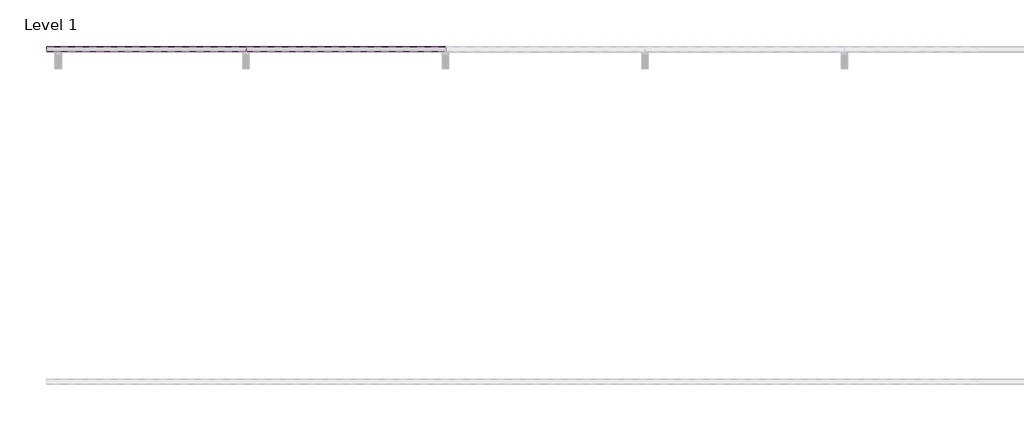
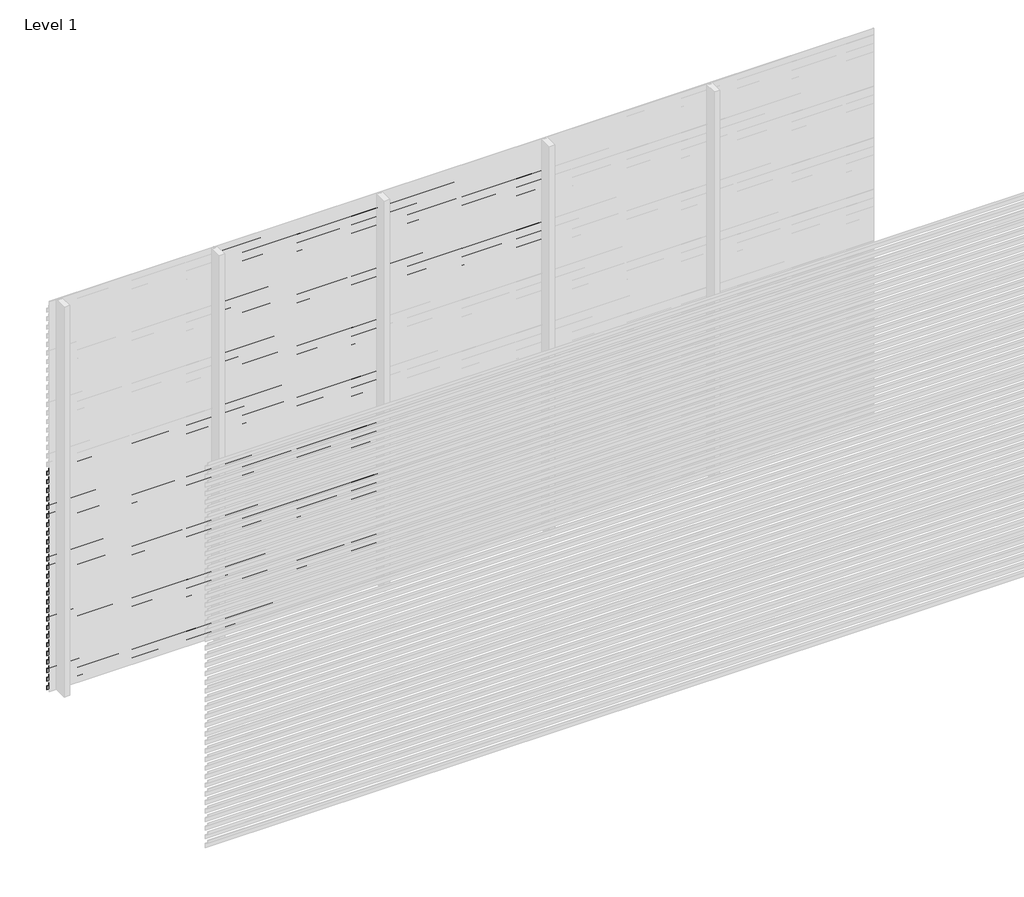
# One storey, part 58 of 540: 85 proxies.
"""IFC4 building model written with IfcOpenShell, lengths in millimetres."""

from ifc_helpers import new_model, si_unit, frame, origin, place, context, project, spatial, polyline, outline, extrude, element, save

model = new_model("IFC4")

# Units and contexts
model_context = context("Model", 3, world=origin())
ifc_project = project(units=[si_unit("LENGTHUNIT", "METRE", prefix="MILLI")], contexts=[model_context])

# Site, building, storey
site = spatial("IfcSite", under=ifc_project)
building = spatial("IfcBuilding", under=site)
storey = spatial("IfcBuildingStorey", under=building, Name="Level 1", Elevation=0.0)

# Proxies
placement = place(None, origin())
element("IfcBuildingElementProxy", 1, Name="Wall Sweeps", at=placement, inside=storey, context=model_context, shape_type="SweptSolid", body=[
    extrude(outline(polyline([(29014.0540136, 1676.0), (29014.0540136, 1643.0), (29012.8040136, 1643.7216933), (29012.8040136, 1675.2872415), (28983.0540136, 1696.0588647), (28983.0540136, 1716.0), (28984.3040136, 1716.0), (28984.3040136, 1696.7716232), (29014.0540136, 1676.0)])), frame((44966.6208097, 0.0, 0.0), z_axis=(1.0, 0.0, 0.0), x_axis=(0.0, 1.0, 0.0)), (0.0, 0.0, 1.0), 1200.0),
])
element("IfcBuildingElementProxy", 2, Name="Wall Sweeps", at=placement, inside=storey, context=model_context, shape_type="SweptSolid", body=[
    extrude(outline(polyline([(29014.0540136, 1610.0), (29014.0540136, 1577.0), (29012.8040136, 1577.7216933), (29012.8040136, 1609.2872415), (28983.0540136, 1630.0588647), (28983.0540136, 1650.0), (28984.3040136, 1650.0), (28984.3040136, 1630.7716232), (29014.0540136, 1610.0)])), frame((44966.6208097, 0.0, 0.0), z_axis=(1.0, 0.0, 0.0), x_axis=(0.0, 1.0, 0.0)), (0.0, 0.0, 1.0), 1200.0),
])
element("IfcBuildingElementProxy", 3, Name="Wall Sweeps", at=placement, inside=storey, context=model_context, shape_type="SweptSolid", body=[
    extrude(outline(polyline([(29014.0540136, 1544.0), (29014.0540136, 1511.0), (29012.8040136, 1511.7216933), (29012.8040136, 1543.2872415), (28983.0540136, 1564.0588647), (28983.0540136, 1584.0), (28984.3040136, 1584.0), (28984.3040136, 1564.7716232), (29014.0540136, 1544.0)])), frame((44966.6208097, 0.0, 0.0), z_axis=(1.0, 0.0, 0.0), x_axis=(0.0, 1.0, 0.0)), (0.0, 0.0, 1.0), 1200.0),
])
element("IfcBuildingElementProxy", 4, Name="Wall Sweeps", at=placement, inside=storey, context=model_context, shape_type="SweptSolid", body=[
    extrude(outline(polyline([(29014.0540136, 1478.0), (29014.0540136, 1445.0), (29012.8040136, 1445.7216933), (29012.8040136, 1477.2872415), (28983.0540136, 1498.0588647), (28983.0540136, 1518.0), (28984.3040136, 1518.0), (28984.3040136, 1498.7716232), (29014.0540136, 1478.0)])), frame((44966.6208097, 0.0, 0.0), z_axis=(1.0, 0.0, 0.0), x_axis=(0.0, 1.0, 0.0)), (0.0, 0.0, 1.0), 1200.0),
])
element("IfcBuildingElementProxy", 5, Name="Wall Sweeps", at=placement, inside=storey, context=model_context, shape_type="SweptSolid", body=[
    extrude(outline(polyline([(29014.0540136, 1412.0), (29014.0540136, 1379.0), (29012.8040136, 1379.7216933), (29012.8040136, 1411.2872415), (28983.0540136, 1432.0588647), (28983.0540136, 1452.0), (28984.3040136, 1452.0), (28984.3040136, 1432.7716232), (29014.0540136, 1412.0)])), frame((44966.6208097, 0.0, 0.0), z_axis=(1.0, 0.0, 0.0), x_axis=(0.0, 1.0, 0.0)), (0.0, 0.0, 1.0), 1200.0),
])
element("IfcBuildingElementProxy", 6, Name="Wall Sweeps", at=placement, inside=storey, context=model_context, shape_type="SweptSolid", body=[
    extrude(outline(polyline([(29014.0540136, 1346.0), (29014.0540136, 1313.0), (29012.8040136, 1313.7216933), (29012.8040136, 1345.2872415), (28983.0540136, 1366.0588647), (28983.0540136, 1386.0), (28984.3040136, 1386.0), (28984.3040136, 1366.7716232), (29014.0540136, 1346.0)])), frame((44966.6208097, 0.0, 0.0), z_axis=(1.0, 0.0, 0.0), x_axis=(0.0, 1.0, 0.0)), (0.0, 0.0, 1.0), 1200.0),
])
element("IfcBuildingElementProxy", 7, Name="Wall Sweeps", at=placement, inside=storey, context=model_context, shape_type="SweptSolid", body=[
    extrude(outline(polyline([(29014.0540136, 1280.0), (29014.0540136, 1247.0), (29012.8040136, 1247.7216933), (29012.8040136, 1279.2872415), (28983.0540136, 1300.0588647), (28983.0540136, 1320.0), (28984.3040136, 1320.0), (28984.3040136, 1300.7716232), (29014.0540136, 1280.0)])), frame((44966.6208097, 0.0, 0.0), z_axis=(1.0, 0.0, 0.0), x_axis=(0.0, 1.0, 0.0)), (0.0, 0.0, 1.0), 1200.0),
])
element("IfcBuildingElementProxy", 8, Name="Wall Sweeps", at=placement, inside=storey, context=model_context, shape_type="SweptSolid", body=[
    extrude(outline(polyline([(29014.0540136, 1214.0), (29014.0540136, 1181.0), (29012.8040136, 1181.7216933), (29012.8040136, 1213.2872415), (28983.0540136, 1234.0588647), (28983.0540136, 1254.0), (28984.3040136, 1254.0), (28984.3040136, 1234.7716232), (29014.0540136, 1214.0)])), frame((44966.6208097, 0.0, 0.0), z_axis=(1.0, 0.0, 0.0), x_axis=(0.0, 1.0, 0.0)), (0.0, 0.0, 1.0), 1200.0),
])
element("IfcBuildingElementProxy", 9, Name="Wall Sweeps", at=placement, inside=storey, context=model_context, shape_type="SweptSolid", body=[
    extrude(outline(polyline([(29014.0540136, 1148.0), (29014.0540136, 1115.0), (29012.8040136, 1115.7216933), (29012.8040136, 1147.2872415), (28983.0540136, 1168.0588647), (28983.0540136, 1188.0), (28984.3040136, 1188.0), (28984.3040136, 1168.7716232), (29014.0540136, 1148.0)])), frame((44966.6208097, 0.0, 0.0), z_axis=(1.0, 0.0, 0.0), x_axis=(0.0, 1.0, 0.0)), (0.0, 0.0, 1.0), 1200.0),
])
element("IfcBuildingElementProxy", 10, Name="Wall Sweeps", at=placement, inside=storey, context=model_context, shape_type="SweptSolid", body=[
    extrude(outline(polyline([(29014.0540136, 1082.0), (29014.0540136, 1049.0), (29012.8040136, 1049.7216933), (29012.8040136, 1081.2872415), (28983.0540136, 1102.0588647), (28983.0540136, 1122.0), (28984.3040136, 1122.0), (28984.3040136, 1102.7716232), (29014.0540136, 1082.0)])), frame((44966.6208097, 0.0, 0.0), z_axis=(1.0, 0.0, 0.0), x_axis=(0.0, 1.0, 0.0)), (0.0, 0.0, 1.0), 1200.0),
])
element("IfcBuildingElementProxy", 11, Name="Wall Sweeps", at=placement, inside=storey, context=model_context, shape_type="SweptSolid", body=[
    extrude(outline(polyline([(29014.0540136, 1016.0), (29014.0540136, 983.0), (29012.8040136, 983.7216933), (29012.8040136, 1015.2872415), (28983.0540136, 1036.0588647), (28983.0540136, 1056.0), (28984.3040136, 1056.0), (28984.3040136, 1036.7716232), (29014.0540136, 1016.0)])), frame((44966.6208097, 0.0, 0.0), z_axis=(1.0, 0.0, 0.0), x_axis=(0.0, 1.0, 0.0)), (0.0, 0.0, 1.0), 1200.0),
])
element("IfcBuildingElementProxy", 12, Name="Wall Sweeps", at=placement, inside=storey, context=model_context, shape_type="SweptSolid", body=[
    extrude(outline(polyline([(29014.0540136, 950.0), (29014.0540136, 917.0), (29012.8040136, 917.7216933), (29012.8040136, 949.2872415), (28983.0540136, 970.0588647), (28983.0540136, 990.0), (28984.3040136, 990.0), (28984.3040136, 970.7716232), (29014.0540136, 950.0)])), frame((44966.6208097, 0.0, 0.0), z_axis=(1.0, 0.0, 0.0), x_axis=(0.0, 1.0, 0.0)), (0.0, 0.0, 1.0), 1200.0),
])
element("IfcBuildingElementProxy", 13, Name="Wall Sweeps", at=placement, inside=storey, context=model_context, shape_type="SweptSolid", body=[
    extrude(outline(polyline([(29014.0540136, 884.0), (29014.0540136, 851.0), (29012.8040136, 851.7216933), (29012.8040136, 883.2872415), (28983.0540136, 904.0588647), (28983.0540136, 924.0), (28984.3040136, 924.0), (28984.3040136, 904.7716232), (29014.0540136, 884.0)])), frame((44966.6208097, 0.0, 0.0), z_axis=(1.0, 0.0, 0.0), x_axis=(0.0, 1.0, 0.0)), (0.0, 0.0, 1.0), 1200.0),
])
element("IfcBuildingElementProxy", 14, Name="Wall Sweeps", at=placement, inside=storey, context=model_context, shape_type="SweptSolid", body=[
    extrude(outline(polyline([(29014.0540136, 818.0), (29014.0540136, 785.0), (29012.8040136, 785.7216933), (29012.8040136, 817.2872415), (28983.0540136, 838.0588647), (28983.0540136, 858.0), (28984.3040136, 858.0), (28984.3040136, 838.7716232), (29014.0540136, 818.0)])), frame((44966.6208097, 0.0, 0.0), z_axis=(1.0, 0.0, 0.0), x_axis=(0.0, 1.0, 0.0)), (0.0, 0.0, 1.0), 1200.0),
])
element("IfcBuildingElementProxy", 15, Name="Wall Sweeps", at=placement, inside=storey, context=model_context, shape_type="SweptSolid", body=[
    extrude(outline(polyline([(29014.0540136, 752.0), (29014.0540136, 719.0), (29012.8040136, 719.7216933), (29012.8040136, 751.2872415), (28983.0540136, 772.0588647), (28983.0540136, 792.0), (28984.3040136, 792.0), (28984.3040136, 772.7716232), (29014.0540136, 752.0)])), frame((44966.6208097, 0.0, 0.0), z_axis=(1.0, 0.0, 0.0), x_axis=(0.0, 1.0, 0.0)), (0.0, 0.0, 1.0), 1200.0),
])
element("IfcBuildingElementProxy", 16, Name="Wall Sweeps", at=placement, inside=storey, context=model_context, shape_type="SweptSolid", body=[
    extrude(outline(polyline([(29014.0540136, 686.0), (29014.0540136, 653.0), (29012.8040136, 653.7216933), (29012.8040136, 685.2872415), (28983.0540136, 706.0588647), (28983.0540136, 726.0), (28984.3040136, 726.0), (28984.3040136, 706.7716232), (29014.0540136, 686.0)])), frame((44966.6208097, 0.0, 0.0), z_axis=(1.0, 0.0, 0.0), x_axis=(0.0, 1.0, 0.0)), (0.0, 0.0, 1.0), 1200.0),
])
element("IfcBuildingElementProxy", 17, Name="Wall Sweeps", at=placement, inside=storey, context=model_context, shape_type="SweptSolid", body=[
    extrude(outline(polyline([(29014.0540136, 620.0), (29014.0540136, 587.0), (29012.8040136, 587.7216933), (29012.8040136, 619.2872415), (28983.0540136, 640.0588647), (28983.0540136, 660.0), (28984.3040136, 660.0), (28984.3040136, 640.7716232), (29014.0540136, 620.0)])), frame((44966.6208097, 0.0, 0.0), z_axis=(1.0, 0.0, 0.0), x_axis=(0.0, 1.0, 0.0)), (0.0, 0.0, 1.0), 1200.0),
])
element("IfcBuildingElementProxy", 18, Name="Wall Sweeps", at=placement, inside=storey, context=model_context, shape_type="SweptSolid", body=[
    extrude(outline(polyline([(29014.0540136, 554.0), (29014.0540136, 521.0), (29012.8040136, 521.7216933), (29012.8040136, 553.2872415), (28983.0540136, 574.0588647), (28983.0540136, 594.0), (28984.3040136, 594.0), (28984.3040136, 574.7716232), (29014.0540136, 554.0)])), frame((44966.6208097, 0.0, 0.0), z_axis=(1.0, 0.0, 0.0), x_axis=(0.0, 1.0, 0.0)), (0.0, 0.0, 1.0), 1200.0),
])
element("IfcBuildingElementProxy", 19, Name="Wall Sweeps", at=placement, inside=storey, context=model_context, shape_type="SweptSolid", body=[
    extrude(outline(polyline([(29014.0540136, 488.0), (29014.0540136, 455.0), (29012.8040136, 455.7216933), (29012.8040136, 487.2872415), (28983.0540136, 508.0588647), (28983.0540136, 528.0), (28984.3040136, 528.0), (28984.3040136, 508.7716232), (29014.0540136, 488.0)])), frame((44966.6208097, 0.0, 0.0), z_axis=(1.0, 0.0, 0.0), x_axis=(0.0, 1.0, 0.0)), (0.0, 0.0, 1.0), 1200.0),
])
element("IfcBuildingElementProxy", 20, Name="Wall Sweeps", at=placement, inside=storey, context=model_context, shape_type="SweptSolid", body=[
    extrude(outline(polyline([(29014.0540136, 422.0), (29014.0540136, 389.0), (29012.8040136, 389.7216933), (29012.8040136, 421.2872415), (28983.0540136, 442.0588647), (28983.0540136, 462.0), (28984.3040136, 462.0), (28984.3040136, 442.7716232), (29014.0540136, 422.0)])), frame((44966.6208097, 0.0, 0.0), z_axis=(1.0, 0.0, 0.0), x_axis=(0.0, 1.0, 0.0)), (0.0, 0.0, 1.0), 1200.0),
])
element("IfcBuildingElementProxy", 21, Name="Wall Sweeps", at=placement, inside=storey, context=model_context, shape_type="SweptSolid", body=[
    extrude(outline(polyline([(29014.0540136, 356.0), (29014.0540136, 323.0), (29012.8040136, 323.7216933), (29012.8040136, 355.2872415), (28983.0540136, 376.0588647), (28983.0540136, 396.0), (28984.3040136, 396.0), (28984.3040136, 376.7716232), (29014.0540136, 356.0)])), frame((44966.6208097, 0.0, 0.0), z_axis=(1.0, 0.0, 0.0), x_axis=(0.0, 1.0, 0.0)), (0.0, 0.0, 1.0), 1200.0),
])
element("IfcBuildingElementProxy", 22, Name="Wall Sweeps", at=placement, inside=storey, context=model_context, shape_type="SweptSolid", body=[
    extrude(outline(polyline([(29014.0540136, 290.0), (29014.0540136, 257.0), (29012.8040136, 257.7216933), (29012.8040136, 289.2872415), (28983.0540136, 310.0588647), (28983.0540136, 330.0), (28984.3040136, 330.0), (28984.3040136, 310.7716232), (29014.0540136, 290.0)])), frame((44966.6208097, 0.0, 0.0), z_axis=(1.0, 0.0, 0.0), x_axis=(0.0, 1.0, 0.0)), (0.0, 0.0, 1.0), 1200.0),
])
element("IfcBuildingElementProxy", 23, Name="Wall Sweeps", at=placement, inside=storey, context=model_context, shape_type="SweptSolid", body=[
    extrude(outline(polyline([(29014.0540136, 224.0), (29014.0540136, 191.0), (29012.8040136, 191.7216933), (29012.8040136, 223.2872415), (28983.0540136, 244.0588647), (28983.0540136, 264.0), (28984.3040136, 264.0), (28984.3040136, 244.7716232), (29014.0540136, 224.0)])), frame((44966.6208097, 0.0, 0.0), z_axis=(1.0, 0.0, 0.0), x_axis=(0.0, 1.0, 0.0)), (0.0, 0.0, 1.0), 1200.0),
])
element("IfcBuildingElementProxy", 24, Name="Wall Sweeps", at=placement, inside=storey, context=model_context, shape_type="SweptSolid", body=[
    extrude(outline(polyline([(29014.0540136, 158.0), (29014.0540136, 125.0), (29012.8040136, 125.7216933), (29012.8040136, 157.2872415), (28983.0540136, 178.0588647), (28983.0540136, 198.0), (28984.3040136, 198.0), (28984.3040136, 178.7716232), (29014.0540136, 158.0)])), frame((44966.6208097, 0.0, 0.0), z_axis=(1.0, 0.0, 0.0), x_axis=(0.0, 1.0, 0.0)), (0.0, 0.0, 1.0), 1200.0),
])
element("IfcBuildingElementProxy", 25, Name="Wall Sweeps", at=placement, inside=storey, context=model_context, shape_type="SweptSolid", body=[
    extrude(outline(polyline([(29014.0540136, 92.0), (29014.0540136, 59.0), (29012.8040136, 59.7216933), (29012.8040136, 91.2872415), (28983.0540136, 112.0588647), (28983.0540136, 132.0), (28984.3040136, 132.0), (28984.3040136, 112.7716232), (29014.0540136, 92.0)])), frame((44966.6208097, 0.0, 0.0), z_axis=(1.0, 0.0, 0.0), x_axis=(0.0, 1.0, 0.0)), (0.0, 0.0, 1.0), 1200.0),
])
element("IfcBuildingElementProxy", 26, Name="Wall Sweeps", at=placement, inside=storey, context=model_context, shape_type="SweptSolid", body=[
    extrude(outline(polyline([(29014.0540136, 26.0), (29014.0540136, -7.0), (29012.8040136, -6.2783067), (29012.8040136, 25.2872415), (28983.0540136, 46.0588647), (28983.0540136, 66.0), (28984.3040136, 66.0), (28984.3040136, 46.7716232), (29014.0540136, 26.0)])), frame((44966.6208097, 0.0, 0.0), z_axis=(1.0, 0.0, 0.0), x_axis=(0.0, 1.0, 0.0)), (0.0, 0.0, 1.0), 1200.0),
])
element("IfcBuildingElementProxy", 27, Name="Wall Sweeps", at=placement, inside=storey, context=model_context, shape_type="SweptSolid", body=[
    extrude(outline(polyline([(29014.0540136, 2930.0), (29014.0540136, 2897.0), (29012.8040136, 2897.7216933), (29012.8040136, 2929.2872415), (28983.0540136, 2950.0588647), (28983.0540136, 2970.0), (28984.3040136, 2970.0), (28984.3040136, 2950.7716232), (29014.0540136, 2930.0)])), frame((46166.6208097, 0.0, 0.0), z_axis=(1.0, 0.0, 0.0), x_axis=(0.0, 1.0, 0.0)), (0.0, 0.0, 1.0), 1200.0),
])
element("IfcBuildingElementProxy", 28, Name="Wall Sweeps", at=placement, inside=storey, context=model_context, shape_type="SweptSolid", body=[
    extrude(outline(polyline([(29014.0540136, 2864.0), (29014.0540136, 2831.0), (29012.8040136, 2831.7216933), (29012.8040136, 2863.2872415), (28983.0540136, 2884.0588647), (28983.0540136, 2904.0), (28984.3040136, 2904.0), (28984.3040136, 2884.7716232), (29014.0540136, 2864.0)])), frame((46166.6208097, 0.0, 0.0), z_axis=(1.0, 0.0, 0.0), x_axis=(0.0, 1.0, 0.0)), (0.0, 0.0, 1.0), 1200.0),
])
element("IfcBuildingElementProxy", 29, Name="Wall Sweeps", at=placement, inside=storey, context=model_context, shape_type="SweptSolid", body=[
    extrude(outline(polyline([(29014.0540136, 2798.0), (29014.0540136, 2765.0), (29012.8040136, 2765.7216933), (29012.8040136, 2797.2872415), (28983.0540136, 2818.0588647), (28983.0540136, 2838.0), (28984.3040136, 2838.0), (28984.3040136, 2818.7716232), (29014.0540136, 2798.0)])), frame((46166.6208097, 0.0, 0.0), z_axis=(1.0, 0.0, 0.0), x_axis=(0.0, 1.0, 0.0)), (0.0, 0.0, 1.0), 1200.0),
])
element("IfcBuildingElementProxy", 30, Name="Wall Sweeps", at=placement, inside=storey, context=model_context, shape_type="SweptSolid", body=[
    extrude(outline(polyline([(29014.0540136, 2732.0), (29014.0540136, 2699.0), (29012.8040136, 2699.7216933), (29012.8040136, 2731.2872415), (28983.0540136, 2752.0588647), (28983.0540136, 2772.0), (28984.3040136, 2772.0), (28984.3040136, 2752.7716232), (29014.0540136, 2732.0)])), frame((46166.6208097, 0.0, 0.0), z_axis=(1.0, 0.0, 0.0), x_axis=(0.0, 1.0, 0.0)), (0.0, 0.0, 1.0), 1200.0),
])
element("IfcBuildingElementProxy", 31, Name="Wall Sweeps", at=placement, inside=storey, context=model_context, shape_type="SweptSolid", body=[
    extrude(outline(polyline([(29014.0540136, 2666.0), (29014.0540136, 2633.0), (29012.8040136, 2633.7216933), (29012.8040136, 2665.2872415), (28983.0540136, 2686.0588647), (28983.0540136, 2706.0), (28984.3040136, 2706.0), (28984.3040136, 2686.7716232), (29014.0540136, 2666.0)])), frame((46166.6208097, 0.0, 0.0), z_axis=(1.0, 0.0, 0.0), x_axis=(0.0, 1.0, 0.0)), (0.0, 0.0, 1.0), 1200.0),
])
element("IfcBuildingElementProxy", 32, Name="Wall Sweeps", at=placement, inside=storey, context=model_context, shape_type="SweptSolid", body=[
    extrude(outline(polyline([(29014.0540136, 2600.0), (29014.0540136, 2567.0), (29012.8040136, 2567.7216933), (29012.8040136, 2599.2872415), (28983.0540136, 2620.0588647), (28983.0540136, 2640.0), (28984.3040136, 2640.0), (28984.3040136, 2620.7716232), (29014.0540136, 2600.0)])), frame((46166.6208097, 0.0, 0.0), z_axis=(1.0, 0.0, 0.0), x_axis=(0.0, 1.0, 0.0)), (0.0, 0.0, 1.0), 1200.0),
])
element("IfcBuildingElementProxy", 33, Name="Wall Sweeps", at=placement, inside=storey, context=model_context, shape_type="SweptSolid", body=[
    extrude(outline(polyline([(29014.0540136, 2534.0), (29014.0540136, 2501.0), (29012.8040136, 2501.7216933), (29012.8040136, 2533.2872415), (28983.0540136, 2554.0588647), (28983.0540136, 2574.0), (28984.3040136, 2574.0), (28984.3040136, 2554.7716232), (29014.0540136, 2534.0)])), frame((46166.6208097, 0.0, 0.0), z_axis=(1.0, 0.0, 0.0), x_axis=(0.0, 1.0, 0.0)), (0.0, 0.0, 1.0), 1200.0),
])
element("IfcBuildingElementProxy", 34, Name="Wall Sweeps", at=placement, inside=storey, context=model_context, shape_type="SweptSolid", body=[
    extrude(outline(polyline([(29014.0540136, 2468.0), (29014.0540136, 2435.0), (29012.8040136, 2435.7216933), (29012.8040136, 2467.2872415), (28983.0540136, 2488.0588647), (28983.0540136, 2508.0), (28984.3040136, 2508.0), (28984.3040136, 2488.7716232), (29014.0540136, 2468.0)])), frame((46166.6208097, 0.0, 0.0), z_axis=(1.0, 0.0, 0.0), x_axis=(0.0, 1.0, 0.0)), (0.0, 0.0, 1.0), 1200.0),
])
element("IfcBuildingElementProxy", 35, Name="Wall Sweeps", at=placement, inside=storey, context=model_context, shape_type="SweptSolid", body=[
    extrude(outline(polyline([(29014.0540136, 2402.0), (29014.0540136, 2369.0), (29012.8040136, 2369.7216933), (29012.8040136, 2401.2872415), (28983.0540136, 2422.0588647), (28983.0540136, 2442.0), (28984.3040136, 2442.0), (28984.3040136, 2422.7716232), (29014.0540136, 2402.0)])), frame((46166.6208097, 0.0, 0.0), z_axis=(1.0, 0.0, 0.0), x_axis=(0.0, 1.0, 0.0)), (0.0, 0.0, 1.0), 1200.0),
])
element("IfcBuildingElementProxy", 36, Name="Wall Sweeps", at=placement, inside=storey, context=model_context, shape_type="SweptSolid", body=[
    extrude(outline(polyline([(29014.0540136, 2336.0), (29014.0540136, 2303.0), (29012.8040136, 2303.7216933), (29012.8040136, 2335.2872415), (28983.0540136, 2356.0588647), (28983.0540136, 2376.0), (28984.3040136, 2376.0), (28984.3040136, 2356.7716232), (29014.0540136, 2336.0)])), frame((46166.6208097, 0.0, 0.0), z_axis=(1.0, 0.0, 0.0), x_axis=(0.0, 1.0, 0.0)), (0.0, 0.0, 1.0), 1200.0),
])
element("IfcBuildingElementProxy", 37, Name="Wall Sweeps", at=placement, inside=storey, context=model_context, shape_type="SweptSolid", body=[
    extrude(outline(polyline([(29014.0540136, 2270.0), (29014.0540136, 2237.0), (29012.8040136, 2237.7216933), (29012.8040136, 2269.2872415), (28983.0540136, 2290.0588647), (28983.0540136, 2310.0), (28984.3040136, 2310.0), (28984.3040136, 2290.7716232), (29014.0540136, 2270.0)])), frame((46166.6208097, 0.0, 0.0), z_axis=(1.0, 0.0, 0.0), x_axis=(0.0, 1.0, 0.0)), (0.0, 0.0, 1.0), 1200.0),
])
element("IfcBuildingElementProxy", 38, Name="Wall Sweeps", at=placement, inside=storey, context=model_context, shape_type="SweptSolid", body=[
    extrude(outline(polyline([(29014.0540136, 2204.0), (29014.0540136, 2171.0), (29012.8040136, 2171.7216933), (29012.8040136, 2203.2872415), (28983.0540136, 2224.0588647), (28983.0540136, 2244.0), (28984.3040136, 2244.0), (28984.3040136, 2224.7716232), (29014.0540136, 2204.0)])), frame((46166.6208097, 0.0, 0.0), z_axis=(1.0, 0.0, 0.0), x_axis=(0.0, 1.0, 0.0)), (0.0, 0.0, 1.0), 1200.0),
])
element("IfcBuildingElementProxy", 39, Name="Wall Sweeps", at=placement, inside=storey, context=model_context, shape_type="SweptSolid", body=[
    extrude(outline(polyline([(29014.0540136, 2138.0), (29014.0540136, 2105.0), (29012.8040136, 2105.7216933), (29012.8040136, 2137.2872415), (28983.0540136, 2158.0588647), (28983.0540136, 2178.0), (28984.3040136, 2178.0), (28984.3040136, 2158.7716232), (29014.0540136, 2138.0)])), frame((46166.6208097, 0.0, 0.0), z_axis=(1.0, 0.0, 0.0), x_axis=(0.0, 1.0, 0.0)), (0.0, 0.0, 1.0), 1200.0),
])
element("IfcBuildingElementProxy", 40, Name="Wall Sweeps", at=placement, inside=storey, context=model_context, shape_type="SweptSolid", body=[
    extrude(outline(polyline([(29014.0540136, 2072.0), (29014.0540136, 2039.0), (29012.8040136, 2039.7216933), (29012.8040136, 2071.2872415), (28983.0540136, 2092.0588647), (28983.0540136, 2112.0), (28984.3040136, 2112.0), (28984.3040136, 2092.7716232), (29014.0540136, 2072.0)])), frame((46166.6208097, 0.0, 0.0), z_axis=(1.0, 0.0, 0.0), x_axis=(0.0, 1.0, 0.0)), (0.0, 0.0, 1.0), 1200.0),
])
element("IfcBuildingElementProxy", 41, Name="Wall Sweeps", at=placement, inside=storey, context=model_context, shape_type="SweptSolid", body=[
    extrude(outline(polyline([(29014.0540136, 2006.0), (29014.0540136, 1973.0), (29012.8040136, 1973.7216933), (29012.8040136, 2005.2872415), (28983.0540136, 2026.0588647), (28983.0540136, 2046.0), (28984.3040136, 2046.0), (28984.3040136, 2026.7716232), (29014.0540136, 2006.0)])), frame((46166.6208097, 0.0, 0.0), z_axis=(1.0, 0.0, 0.0), x_axis=(0.0, 1.0, 0.0)), (0.0, 0.0, 1.0), 1200.0),
])
element("IfcBuildingElementProxy", 42, Name="Wall Sweeps", at=placement, inside=storey, context=model_context, shape_type="SweptSolid", body=[
    extrude(outline(polyline([(29014.0540136, 1940.0), (29014.0540136, 1907.0), (29012.8040136, 1907.7216933), (29012.8040136, 1939.2872415), (28983.0540136, 1960.0588647), (28983.0540136, 1980.0), (28984.3040136, 1980.0), (28984.3040136, 1960.7716232), (29014.0540136, 1940.0)])), frame((46166.6208097, 0.0, 0.0), z_axis=(1.0, 0.0, 0.0), x_axis=(0.0, 1.0, 0.0)), (0.0, 0.0, 1.0), 1200.0),
])
element("IfcBuildingElementProxy", 43, Name="Wall Sweeps", at=placement, inside=storey, context=model_context, shape_type="SweptSolid", body=[
    extrude(outline(polyline([(29014.0540136, 1874.0), (29014.0540136, 1841.0), (29012.8040136, 1841.7216933), (29012.8040136, 1873.2872415), (28983.0540136, 1894.0588647), (28983.0540136, 1914.0), (28984.3040136, 1914.0), (28984.3040136, 1894.7716232), (29014.0540136, 1874.0)])), frame((46166.6208097, 0.0, 0.0), z_axis=(1.0, 0.0, 0.0), x_axis=(0.0, 1.0, 0.0)), (0.0, 0.0, 1.0), 1200.0),
])
element("IfcBuildingElementProxy", 44, Name="Wall Sweeps", at=placement, inside=storey, context=model_context, shape_type="SweptSolid", body=[
    extrude(outline(polyline([(29014.0540136, 1808.0), (29014.0540136, 1775.0), (29012.8040136, 1775.7216933), (29012.8040136, 1807.2872415), (28983.0540136, 1828.0588647), (28983.0540136, 1848.0), (28984.3040136, 1848.0), (28984.3040136, 1828.7716232), (29014.0540136, 1808.0)])), frame((46166.6208097, 0.0, 0.0), z_axis=(1.0, 0.0, 0.0), x_axis=(0.0, 1.0, 0.0)), (0.0, 0.0, 1.0), 1200.0),
])
element("IfcBuildingElementProxy", 45, Name="Wall Sweeps", at=placement, inside=storey, context=model_context, shape_type="SweptSolid", body=[
    extrude(outline(polyline([(29014.0540136, 1742.0), (29014.0540136, 1709.0), (29012.8040136, 1709.7216933), (29012.8040136, 1741.2872415), (28983.0540136, 1762.0588647), (28983.0540136, 1782.0), (28984.3040136, 1782.0), (28984.3040136, 1762.7716232), (29014.0540136, 1742.0)])), frame((46166.6208097, 0.0, 0.0), z_axis=(1.0, 0.0, 0.0), x_axis=(0.0, 1.0, 0.0)), (0.0, 0.0, 1.0), 1200.0),
])
element("IfcBuildingElementProxy", 46, Name="Wall Sweeps", at=placement, inside=storey, context=model_context, shape_type="SweptSolid", body=[
    extrude(outline(polyline([(29014.0540136, 1676.0), (29014.0540136, 1643.0), (29012.8040136, 1643.7216933), (29012.8040136, 1675.2872415), (28983.0540136, 1696.0588647), (28983.0540136, 1716.0), (28984.3040136, 1716.0), (28984.3040136, 1696.7716232), (29014.0540136, 1676.0)])), frame((46166.6208097, 0.0, 0.0), z_axis=(1.0, 0.0, 0.0), x_axis=(0.0, 1.0, 0.0)), (0.0, 0.0, 1.0), 1200.0),
])
element("IfcBuildingElementProxy", 47, Name="Wall Sweeps", at=placement, inside=storey, context=model_context, shape_type="SweptSolid", body=[
    extrude(outline(polyline([(29014.0540136, 1610.0), (29014.0540136, 1577.0), (29012.8040136, 1577.7216933), (29012.8040136, 1609.2872415), (28983.0540136, 1630.0588647), (28983.0540136, 1650.0), (28984.3040136, 1650.0), (28984.3040136, 1630.7716232), (29014.0540136, 1610.0)])), frame((46166.6208097, 0.0, 0.0), z_axis=(1.0, 0.0, 0.0), x_axis=(0.0, 1.0, 0.0)), (0.0, 0.0, 1.0), 1200.0),
])
element("IfcBuildingElementProxy", 48, Name="Wall Sweeps", at=placement, inside=storey, context=model_context, shape_type="SweptSolid", body=[
    extrude(outline(polyline([(29014.0540136, 1544.0), (29014.0540136, 1511.0), (29012.8040136, 1511.7216933), (29012.8040136, 1543.2872415), (28983.0540136, 1564.0588647), (28983.0540136, 1584.0), (28984.3040136, 1584.0), (28984.3040136, 1564.7716232), (29014.0540136, 1544.0)])), frame((46166.6208097, 0.0, 0.0), z_axis=(1.0, 0.0, 0.0), x_axis=(0.0, 1.0, 0.0)), (0.0, 0.0, 1.0), 1200.0),
])
element("IfcBuildingElementProxy", 49, Name="Wall Sweeps", at=placement, inside=storey, context=model_context, shape_type="SweptSolid", body=[
    extrude(outline(polyline([(29014.0540136, 1478.0), (29014.0540136, 1445.0), (29012.8040136, 1445.7216933), (29012.8040136, 1477.2872415), (28983.0540136, 1498.0588647), (28983.0540136, 1518.0), (28984.3040136, 1518.0), (28984.3040136, 1498.7716232), (29014.0540136, 1478.0)])), frame((46166.6208097, 0.0, 0.0), z_axis=(1.0, 0.0, 0.0), x_axis=(0.0, 1.0, 0.0)), (0.0, 0.0, 1.0), 1200.0),
])
element("IfcBuildingElementProxy", 50, Name="Wall Sweeps", at=placement, inside=storey, context=model_context, shape_type="SweptSolid", body=[
    extrude(outline(polyline([(29014.0540136, 1412.0), (29014.0540136, 1379.0), (29012.8040136, 1379.7216933), (29012.8040136, 1411.2872415), (28983.0540136, 1432.0588647), (28983.0540136, 1452.0), (28984.3040136, 1452.0), (28984.3040136, 1432.7716232), (29014.0540136, 1412.0)])), frame((46166.6208097, 0.0, 0.0), z_axis=(1.0, 0.0, 0.0), x_axis=(0.0, 1.0, 0.0)), (0.0, 0.0, 1.0), 1200.0),
])
element("IfcBuildingElementProxy", 51, Name="Wall Sweeps", at=placement, inside=storey, context=model_context, shape_type="SweptSolid", body=[
    extrude(outline(polyline([(29014.0540136, 1346.0), (29014.0540136, 1313.0), (29012.8040136, 1313.7216933), (29012.8040136, 1345.2872415), (28983.0540136, 1366.0588647), (28983.0540136, 1386.0), (28984.3040136, 1386.0), (28984.3040136, 1366.7716232), (29014.0540136, 1346.0)])), frame((46166.6208097, 0.0, 0.0), z_axis=(1.0, 0.0, 0.0), x_axis=(0.0, 1.0, 0.0)), (0.0, 0.0, 1.0), 1200.0),
])
element("IfcBuildingElementProxy", 52, Name="Wall Sweeps", at=placement, inside=storey, context=model_context, shape_type="SweptSolid", body=[
    extrude(outline(polyline([(29014.0540136, 1280.0), (29014.0540136, 1247.0), (29012.8040136, 1247.7216933), (29012.8040136, 1279.2872415), (28983.0540136, 1300.0588647), (28983.0540136, 1320.0), (28984.3040136, 1320.0), (28984.3040136, 1300.7716232), (29014.0540136, 1280.0)])), frame((46166.6208097, 0.0, 0.0), z_axis=(1.0, 0.0, 0.0), x_axis=(0.0, 1.0, 0.0)), (0.0, 0.0, 1.0), 1200.0),
])
element("IfcBuildingElementProxy", 53, Name="Wall Sweeps", at=placement, inside=storey, context=model_context, shape_type="SweptSolid", body=[
    extrude(outline(polyline([(29014.0540136, 1214.0), (29014.0540136, 1181.0), (29012.8040136, 1181.7216933), (29012.8040136, 1213.2872415), (28983.0540136, 1234.0588647), (28983.0540136, 1254.0), (28984.3040136, 1254.0), (28984.3040136, 1234.7716232), (29014.0540136, 1214.0)])), frame((46166.6208097, 0.0, 0.0), z_axis=(1.0, 0.0, 0.0), x_axis=(0.0, 1.0, 0.0)), (0.0, 0.0, 1.0), 1200.0),
])
element("IfcBuildingElementProxy", 54, Name="Wall Sweeps", at=placement, inside=storey, context=model_context, shape_type="SweptSolid", body=[
    extrude(outline(polyline([(29014.0540136, 1148.0), (29014.0540136, 1115.0), (29012.8040136, 1115.7216933), (29012.8040136, 1147.2872415), (28983.0540136, 1168.0588647), (28983.0540136, 1188.0), (28984.3040136, 1188.0), (28984.3040136, 1168.7716232), (29014.0540136, 1148.0)])), frame((46166.6208097, 0.0, 0.0), z_axis=(1.0, 0.0, 0.0), x_axis=(0.0, 1.0, 0.0)), (0.0, 0.0, 1.0), 1200.0),
])
element("IfcBuildingElementProxy", 55, Name="Wall Sweeps", at=placement, inside=storey, context=model_context, shape_type="SweptSolid", body=[
    extrude(outline(polyline([(29014.0540136, 1082.0), (29014.0540136, 1049.0), (29012.8040136, 1049.7216933), (29012.8040136, 1081.2872415), (28983.0540136, 1102.0588647), (28983.0540136, 1122.0), (28984.3040136, 1122.0), (28984.3040136, 1102.7716232), (29014.0540136, 1082.0)])), frame((46166.6208097, 0.0, 0.0), z_axis=(1.0, 0.0, 0.0), x_axis=(0.0, 1.0, 0.0)), (0.0, 0.0, 1.0), 1200.0),
])
element("IfcBuildingElementProxy", 56, Name="Wall Sweeps", at=placement, inside=storey, context=model_context, shape_type="SweptSolid", body=[
    extrude(outline(polyline([(29014.0540136, 1016.0), (29014.0540136, 983.0), (29012.8040136, 983.7216933), (29012.8040136, 1015.2872415), (28983.0540136, 1036.0588647), (28983.0540136, 1056.0), (28984.3040136, 1056.0), (28984.3040136, 1036.7716232), (29014.0540136, 1016.0)])), frame((46166.6208097, 0.0, 0.0), z_axis=(1.0, 0.0, 0.0), x_axis=(0.0, 1.0, 0.0)), (0.0, 0.0, 1.0), 1200.0),
])
element("IfcBuildingElementProxy", 57, Name="Wall Sweeps", at=placement, inside=storey, context=model_context, shape_type="SweptSolid", body=[
    extrude(outline(polyline([(29014.0540136, 950.0), (29014.0540136, 917.0), (29012.8040136, 917.7216933), (29012.8040136, 949.2872415), (28983.0540136, 970.0588647), (28983.0540136, 990.0), (28984.3040136, 990.0), (28984.3040136, 970.7716232), (29014.0540136, 950.0)])), frame((46166.6208097, 0.0, 0.0), z_axis=(1.0, 0.0, 0.0), x_axis=(0.0, 1.0, 0.0)), (0.0, 0.0, 1.0), 1200.0),
])
element("IfcBuildingElementProxy", 58, Name="Wall Sweeps", at=placement, inside=storey, context=model_context, shape_type="SweptSolid", body=[
    extrude(outline(polyline([(29014.0540136, 884.0), (29014.0540136, 851.0), (29012.8040136, 851.7216933), (29012.8040136, 883.2872415), (28983.0540136, 904.0588647), (28983.0540136, 924.0), (28984.3040136, 924.0), (28984.3040136, 904.7716232), (29014.0540136, 884.0)])), frame((46166.6208097, 0.0, 0.0), z_axis=(1.0, 0.0, 0.0), x_axis=(0.0, 1.0, 0.0)), (0.0, 0.0, 1.0), 1200.0),
])
element("IfcBuildingElementProxy", 59, Name="Wall Sweeps", at=placement, inside=storey, context=model_context, shape_type="SweptSolid", body=[
    extrude(outline(polyline([(29014.0540136, 818.0), (29014.0540136, 785.0), (29012.8040136, 785.7216933), (29012.8040136, 817.2872415), (28983.0540136, 838.0588647), (28983.0540136, 858.0), (28984.3040136, 858.0), (28984.3040136, 838.7716232), (29014.0540136, 818.0)])), frame((46166.6208097, 0.0, 0.0), z_axis=(1.0, 0.0, 0.0), x_axis=(0.0, 1.0, 0.0)), (0.0, 0.0, 1.0), 1200.0),
])
element("IfcBuildingElementProxy", 60, Name="Wall Sweeps", at=placement, inside=storey, context=model_context, shape_type="SweptSolid", body=[
    extrude(outline(polyline([(29014.0540136, 752.0), (29014.0540136, 719.0), (29012.8040136, 719.7216933), (29012.8040136, 751.2872415), (28983.0540136, 772.0588647), (28983.0540136, 792.0), (28984.3040136, 792.0), (28984.3040136, 772.7716232), (29014.0540136, 752.0)])), frame((46166.6208097, 0.0, 0.0), z_axis=(1.0, 0.0, 0.0), x_axis=(0.0, 1.0, 0.0)), (0.0, 0.0, 1.0), 1200.0),
])
element("IfcBuildingElementProxy", 61, Name="Wall Sweeps", at=placement, inside=storey, context=model_context, shape_type="SweptSolid", body=[
    extrude(outline(polyline([(29014.0540136, 686.0), (29014.0540136, 653.0), (29012.8040136, 653.7216933), (29012.8040136, 685.2872415), (28983.0540136, 706.0588647), (28983.0540136, 726.0), (28984.3040136, 726.0), (28984.3040136, 706.7716232), (29014.0540136, 686.0)])), frame((46166.6208097, 0.0, 0.0), z_axis=(1.0, 0.0, 0.0), x_axis=(0.0, 1.0, 0.0)), (0.0, 0.0, 1.0), 1200.0),
])
element("IfcBuildingElementProxy", 62, Name="Wall Sweeps", at=placement, inside=storey, context=model_context, shape_type="SweptSolid", body=[
    extrude(outline(polyline([(29014.0540136, 620.0), (29014.0540136, 587.0), (29012.8040136, 587.7216933), (29012.8040136, 619.2872415), (28983.0540136, 640.0588647), (28983.0540136, 660.0), (28984.3040136, 660.0), (28984.3040136, 640.7716232), (29014.0540136, 620.0)])), frame((46166.6208097, 0.0, 0.0), z_axis=(1.0, 0.0, 0.0), x_axis=(0.0, 1.0, 0.0)), (0.0, 0.0, 1.0), 1200.0),
])
element("IfcBuildingElementProxy", 63, Name="Wall Sweeps", at=placement, inside=storey, context=model_context, shape_type="SweptSolid", body=[
    extrude(outline(polyline([(29014.0540136, 554.0), (29014.0540136, 521.0), (29012.8040136, 521.7216933), (29012.8040136, 553.2872415), (28983.0540136, 574.0588647), (28983.0540136, 594.0), (28984.3040136, 594.0), (28984.3040136, 574.7716232), (29014.0540136, 554.0)])), frame((46166.6208097, 0.0, 0.0), z_axis=(1.0, 0.0, 0.0), x_axis=(0.0, 1.0, 0.0)), (0.0, 0.0, 1.0), 1200.0),
])
element("IfcBuildingElementProxy", 64, Name="Wall Sweeps", at=placement, inside=storey, context=model_context, shape_type="SweptSolid", body=[
    extrude(outline(polyline([(29014.0540136, 488.0), (29014.0540136, 455.0), (29012.8040136, 455.7216933), (29012.8040136, 487.2872415), (28983.0540136, 508.0588647), (28983.0540136, 528.0), (28984.3040136, 528.0), (28984.3040136, 508.7716232), (29014.0540136, 488.0)])), frame((46166.6208097, 0.0, 0.0), z_axis=(1.0, 0.0, 0.0), x_axis=(0.0, 1.0, 0.0)), (0.0, 0.0, 1.0), 1200.0),
])
element("IfcBuildingElementProxy", 65, Name="Wall Sweeps", at=placement, inside=storey, context=model_context, shape_type="SweptSolid", body=[
    extrude(outline(polyline([(29014.0540136, 422.0), (29014.0540136, 389.0), (29012.8040136, 389.7216933), (29012.8040136, 421.2872415), (28983.0540136, 442.0588647), (28983.0540136, 462.0), (28984.3040136, 462.0), (28984.3040136, 442.7716232), (29014.0540136, 422.0)])), frame((46166.6208097, 0.0, 0.0), z_axis=(1.0, 0.0, 0.0), x_axis=(0.0, 1.0, 0.0)), (0.0, 0.0, 1.0), 1200.0),
])
element("IfcBuildingElementProxy", 66, Name="Wall Sweeps", at=placement, inside=storey, context=model_context, shape_type="SweptSolid", body=[
    extrude(outline(polyline([(29014.0540136, 356.0), (29014.0540136, 323.0), (29012.8040136, 323.7216933), (29012.8040136, 355.2872415), (28983.0540136, 376.0588647), (28983.0540136, 396.0), (28984.3040136, 396.0), (28984.3040136, 376.7716232), (29014.0540136, 356.0)])), frame((46166.6208097, 0.0, 0.0), z_axis=(1.0, 0.0, 0.0), x_axis=(0.0, 1.0, 0.0)), (0.0, 0.0, 1.0), 1200.0),
])
element("IfcBuildingElementProxy", 67, Name="Wall Sweeps", at=placement, inside=storey, context=model_context, shape_type="SweptSolid", body=[
    extrude(outline(polyline([(29014.0540136, 290.0), (29014.0540136, 257.0), (29012.8040136, 257.7216933), (29012.8040136, 289.2872415), (28983.0540136, 310.0588647), (28983.0540136, 330.0), (28984.3040136, 330.0), (28984.3040136, 310.7716232), (29014.0540136, 290.0)])), frame((46166.6208097, 0.0, 0.0), z_axis=(1.0, 0.0, 0.0), x_axis=(0.0, 1.0, 0.0)), (0.0, 0.0, 1.0), 1200.0),
])
element("IfcBuildingElementProxy", 68, Name="Wall Sweeps", at=placement, inside=storey, context=model_context, shape_type="SweptSolid", body=[
    extrude(outline(polyline([(29014.0540136, 224.0), (29014.0540136, 191.0), (29012.8040136, 191.7216933), (29012.8040136, 223.2872415), (28983.0540136, 244.0588647), (28983.0540136, 264.0), (28984.3040136, 264.0), (28984.3040136, 244.7716232), (29014.0540136, 224.0)])), frame((46166.6208097, 0.0, 0.0), z_axis=(1.0, 0.0, 0.0), x_axis=(0.0, 1.0, 0.0)), (0.0, 0.0, 1.0), 1200.0),
])
element("IfcBuildingElementProxy", 69, Name="Wall Sweeps", at=placement, inside=storey, context=model_context, shape_type="SweptSolid", body=[
    extrude(outline(polyline([(29014.0540136, 158.0), (29014.0540136, 125.0), (29012.8040136, 125.7216933), (29012.8040136, 157.2872415), (28983.0540136, 178.0588647), (28983.0540136, 198.0), (28984.3040136, 198.0), (28984.3040136, 178.7716232), (29014.0540136, 158.0)])), frame((46166.6208097, 0.0, 0.0), z_axis=(1.0, 0.0, 0.0), x_axis=(0.0, 1.0, 0.0)), (0.0, 0.0, 1.0), 1200.0),
])
element("IfcBuildingElementProxy", 70, Name="Wall Sweeps", at=placement, inside=storey, context=model_context, shape_type="SweptSolid", body=[
    extrude(outline(polyline([(29014.0540136, 92.0), (29014.0540136, 59.0), (29012.8040136, 59.7216933), (29012.8040136, 91.2872415), (28983.0540136, 112.0588647), (28983.0540136, 132.0), (28984.3040136, 132.0), (28984.3040136, 112.7716232), (29014.0540136, 92.0)])), frame((46166.6208097, 0.0, 0.0), z_axis=(1.0, 0.0, 0.0), x_axis=(0.0, 1.0, 0.0)), (0.0, 0.0, 1.0), 1200.0),
])
element("IfcBuildingElementProxy", 71, Name="Wall Sweeps", at=placement, inside=storey, context=model_context, shape_type="SweptSolid", body=[
    extrude(outline(polyline([(29014.0540136, 26.0), (29014.0540136, -7.0), (29012.8040136, -6.2783067), (29012.8040136, 25.2872415), (28983.0540136, 46.0588647), (28983.0540136, 66.0), (28984.3040136, 66.0), (28984.3040136, 46.7716232), (29014.0540136, 26.0)])), frame((46166.6208097, 0.0, 0.0), z_axis=(1.0, 0.0, 0.0), x_axis=(0.0, 1.0, 0.0)), (0.0, 0.0, 1.0), 1200.0),
])
element("IfcBuildingElementProxy", 72, Name="Wall Sweeps", at=placement, inside=storey, context=model_context, shape_type="SweptSolid", body=[
    extrude(outline(polyline([(29014.0540136, 2930.0), (29014.0540136, 2897.0), (29012.8040136, 2897.7216933), (29012.8040136, 2929.2872415), (28983.0540136, 2950.0588647), (28983.0540136, 2970.0), (28984.3040136, 2970.0), (28984.3040136, 2950.7716232), (29014.0540136, 2930.0)])), frame((47366.6208097, 0.0, 0.0), z_axis=(1.0, 0.0, 0.0), x_axis=(0.0, 1.0, 0.0)), (0.0, 0.0, 1.0), 1200.0),
])
element("IfcBuildingElementProxy", 73, Name="Wall Sweeps", at=placement, inside=storey, context=model_context, shape_type="SweptSolid", body=[
    extrude(outline(polyline([(29014.0540136, 2864.0), (29014.0540136, 2831.0), (29012.8040136, 2831.7216933), (29012.8040136, 2863.2872415), (28983.0540136, 2884.0588647), (28983.0540136, 2904.0), (28984.3040136, 2904.0), (28984.3040136, 2884.7716232), (29014.0540136, 2864.0)])), frame((47366.6208097, 0.0, 0.0), z_axis=(1.0, 0.0, 0.0), x_axis=(0.0, 1.0, 0.0)), (0.0, 0.0, 1.0), 1200.0),
])
element("IfcBuildingElementProxy", 74, Name="Wall Sweeps", at=placement, inside=storey, context=model_context, shape_type="SweptSolid", body=[
    extrude(outline(polyline([(29014.0540136, 2798.0), (29014.0540136, 2765.0), (29012.8040136, 2765.7216933), (29012.8040136, 2797.2872415), (28983.0540136, 2818.0588647), (28983.0540136, 2838.0), (28984.3040136, 2838.0), (28984.3040136, 2818.7716232), (29014.0540136, 2798.0)])), frame((47366.6208097, 0.0, 0.0), z_axis=(1.0, 0.0, 0.0), x_axis=(0.0, 1.0, 0.0)), (0.0, 0.0, 1.0), 1200.0),
])
element("IfcBuildingElementProxy", 75, Name="Wall Sweeps", at=placement, inside=storey, context=model_context, shape_type="SweptSolid", body=[
    extrude(outline(polyline([(29014.0540136, 2732.0), (29014.0540136, 2699.0), (29012.8040136, 2699.7216933), (29012.8040136, 2731.2872415), (28983.0540136, 2752.0588647), (28983.0540136, 2772.0), (28984.3040136, 2772.0), (28984.3040136, 2752.7716232), (29014.0540136, 2732.0)])), frame((47366.6208097, 0.0, 0.0), z_axis=(1.0, 0.0, 0.0), x_axis=(0.0, 1.0, 0.0)), (0.0, 0.0, 1.0), 1200.0),
])
element("IfcBuildingElementProxy", 76, Name="Wall Sweeps", at=placement, inside=storey, context=model_context, shape_type="SweptSolid", body=[
    extrude(outline(polyline([(29014.0540136, 2666.0), (29014.0540136, 2633.0), (29012.8040136, 2633.7216933), (29012.8040136, 2665.2872415), (28983.0540136, 2686.0588647), (28983.0540136, 2706.0), (28984.3040136, 2706.0), (28984.3040136, 2686.7716232), (29014.0540136, 2666.0)])), frame((47366.6208097, 0.0, 0.0), z_axis=(1.0, 0.0, 0.0), x_axis=(0.0, 1.0, 0.0)), (0.0, 0.0, 1.0), 1200.0),
])
element("IfcBuildingElementProxy", 77, Name="Wall Sweeps", at=placement, inside=storey, context=model_context, shape_type="SweptSolid", body=[
    extrude(outline(polyline([(29014.0540136, 2600.0), (29014.0540136, 2567.0), (29012.8040136, 2567.7216933), (29012.8040136, 2599.2872415), (28983.0540136, 2620.0588647), (28983.0540136, 2640.0), (28984.3040136, 2640.0), (28984.3040136, 2620.7716232), (29014.0540136, 2600.0)])), frame((47366.6208097, 0.0, 0.0), z_axis=(1.0, 0.0, 0.0), x_axis=(0.0, 1.0, 0.0)), (0.0, 0.0, 1.0), 1200.0),
])
element("IfcBuildingElementProxy", 78, Name="Wall Sweeps", at=placement, inside=storey, context=model_context, shape_type="SweptSolid", body=[
    extrude(outline(polyline([(29014.0540136, 2534.0), (29014.0540136, 2501.0), (29012.8040136, 2501.7216933), (29012.8040136, 2533.2872415), (28983.0540136, 2554.0588647), (28983.0540136, 2574.0), (28984.3040136, 2574.0), (28984.3040136, 2554.7716232), (29014.0540136, 2534.0)])), frame((47366.6208097, 0.0, 0.0), z_axis=(1.0, 0.0, 0.0), x_axis=(0.0, 1.0, 0.0)), (0.0, 0.0, 1.0), 1200.0),
])
element("IfcBuildingElementProxy", 79, Name="Wall Sweeps", at=placement, inside=storey, context=model_context, shape_type="SweptSolid", body=[
    extrude(outline(polyline([(29014.0540136, 2468.0), (29014.0540136, 2435.0), (29012.8040136, 2435.7216933), (29012.8040136, 2467.2872415), (28983.0540136, 2488.0588647), (28983.0540136, 2508.0), (28984.3040136, 2508.0), (28984.3040136, 2488.7716232), (29014.0540136, 2468.0)])), frame((47366.6208097, 0.0, 0.0), z_axis=(1.0, 0.0, 0.0), x_axis=(0.0, 1.0, 0.0)), (0.0, 0.0, 1.0), 1200.0),
])
element("IfcBuildingElementProxy", 80, Name="Wall Sweeps", at=placement, inside=storey, context=model_context, shape_type="SweptSolid", body=[
    extrude(outline(polyline([(29014.0540136, 2402.0), (29014.0540136, 2369.0), (29012.8040136, 2369.7216933), (29012.8040136, 2401.2872415), (28983.0540136, 2422.0588647), (28983.0540136, 2442.0), (28984.3040136, 2442.0), (28984.3040136, 2422.7716232), (29014.0540136, 2402.0)])), frame((47366.6208097, 0.0, 0.0), z_axis=(1.0, 0.0, 0.0), x_axis=(0.0, 1.0, 0.0)), (0.0, 0.0, 1.0), 1200.0),
])
element("IfcBuildingElementProxy", 81, Name="Wall Sweeps", at=placement, inside=storey, context=model_context, shape_type="SweptSolid", body=[
    extrude(outline(polyline([(29014.0540136, 2336.0), (29014.0540136, 2303.0), (29012.8040136, 2303.7216933), (29012.8040136, 2335.2872415), (28983.0540136, 2356.0588647), (28983.0540136, 2376.0), (28984.3040136, 2376.0), (28984.3040136, 2356.7716232), (29014.0540136, 2336.0)])), frame((47366.6208097, 0.0, 0.0), z_axis=(1.0, 0.0, 0.0), x_axis=(0.0, 1.0, 0.0)), (0.0, 0.0, 1.0), 1200.0),
])
element("IfcBuildingElementProxy", 82, Name="Wall Sweeps", at=placement, inside=storey, context=model_context, shape_type="SweptSolid", body=[
    extrude(outline(polyline([(29014.0540136, 2270.0), (29014.0540136, 2237.0), (29012.8040136, 2237.7216933), (29012.8040136, 2269.2872415), (28983.0540136, 2290.0588647), (28983.0540136, 2310.0), (28984.3040136, 2310.0), (28984.3040136, 2290.7716232), (29014.0540136, 2270.0)])), frame((47366.6208097, 0.0, 0.0), z_axis=(1.0, 0.0, 0.0), x_axis=(0.0, 1.0, 0.0)), (0.0, 0.0, 1.0), 1200.0),
])
element("IfcBuildingElementProxy", 83, Name="Wall Sweeps", at=placement, inside=storey, context=model_context, shape_type="SweptSolid", body=[
    extrude(outline(polyline([(29014.0540136, 2204.0), (29014.0540136, 2171.0), (29012.8040136, 2171.7216933), (29012.8040136, 2203.2872415), (28983.0540136, 2224.0588647), (28983.0540136, 2244.0), (28984.3040136, 2244.0), (28984.3040136, 2224.7716232), (29014.0540136, 2204.0)])), frame((47366.6208097, 0.0, 0.0), z_axis=(1.0, 0.0, 0.0), x_axis=(0.0, 1.0, 0.0)), (0.0, 0.0, 1.0), 1200.0),
])
element("IfcBuildingElementProxy", 84, Name="Wall Sweeps", at=placement, inside=storey, context=model_context, shape_type="SweptSolid", body=[
    extrude(outline(polyline([(29014.0540136, 2138.0), (29014.0540136, 2105.0), (29012.8040136, 2105.7216933), (29012.8040136, 2137.2872415), (28983.0540136, 2158.0588647), (28983.0540136, 2178.0), (28984.3040136, 2178.0), (28984.3040136, 2158.7716232), (29014.0540136, 2138.0)])), frame((47366.6208097, 0.0, 0.0), z_axis=(1.0, 0.0, 0.0), x_axis=(0.0, 1.0, 0.0)), (0.0, 0.0, 1.0), 1200.0),
])
element("IfcBuildingElementProxy", 85, Name="Wall Sweeps", at=placement, inside=storey, context=model_context, shape_type="SweptSolid", body=[
    extrude(outline(polyline([(29014.0540136, 2072.0), (29014.0540136, 2039.0), (29012.8040136, 2039.7216933), (29012.8040136, 2071.2872415), (28983.0540136, 2092.0588647), (28983.0540136, 2112.0), (28984.3040136, 2112.0), (28984.3040136, 2092.7716232), (29014.0540136, 2072.0)])), frame((47366.6208097, 0.0, 0.0), z_axis=(1.0, 0.0, 0.0), x_axis=(0.0, 1.0, 0.0)), (0.0, 0.0, 1.0), 1200.0),
])

save(model, "model.ifc")
